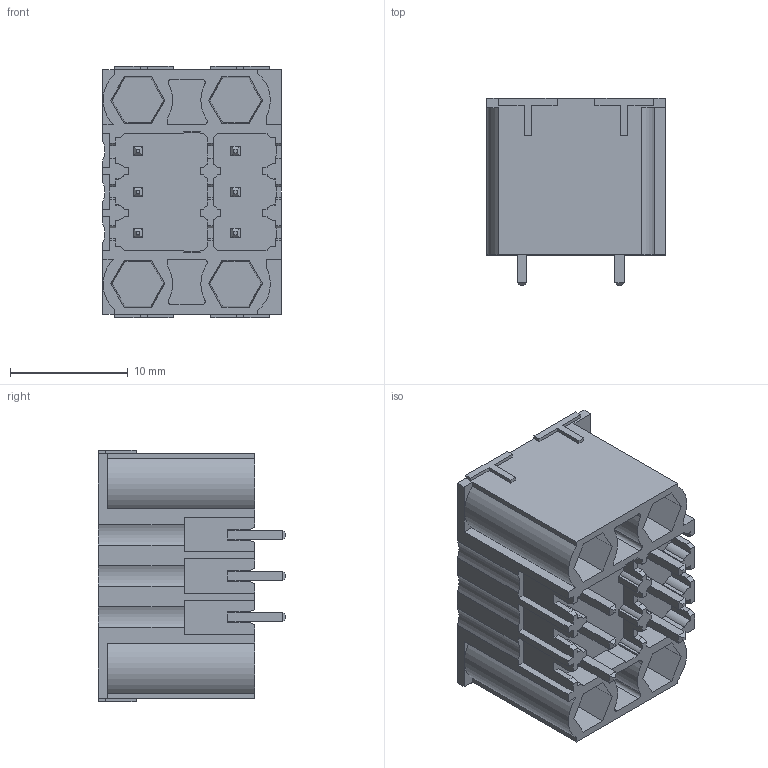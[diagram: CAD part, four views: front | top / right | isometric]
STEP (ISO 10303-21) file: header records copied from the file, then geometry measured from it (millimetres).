
FILE_DESCRIPTION((''),'2;1');
FILE_NAME('333','2019-04-12T',('zhenbing.lai'),(''),'CREO PARAMETRIC BY PTC INC, 2016260','CREO PARAMETRIC BY PTC INC, 2016260','');
FILE_SCHEMA(('CONFIG_CONTROL_DESIGN'));
Length unit declared in the file: millimetre
Products named in the file (1): 333
Bounding box: 15.2 x 15.9 x 21.4 mm (x, y, z)
Volume: 2490.9 mm3; surface area: 3569.5 mm2
Topology: 1 solids, 1 shells, 655 faces, 1785 edges, 1163 vertices
Faces by surface type: plane 591, cylinder 50, cone 14
Entity records: 20348 total; most frequent: CARTESIAN_POINT 3657, ORIENTED_EDGE 3570, DIRECTION 3232, EDGE_CURVE 1785, VECTOR 1624, LINE 1624, VERTEX_POINT 1163, AXIS2_PLACEMENT_3D 804
